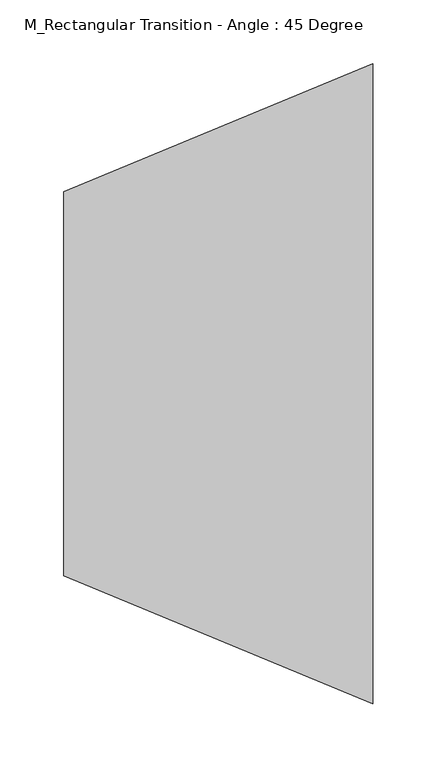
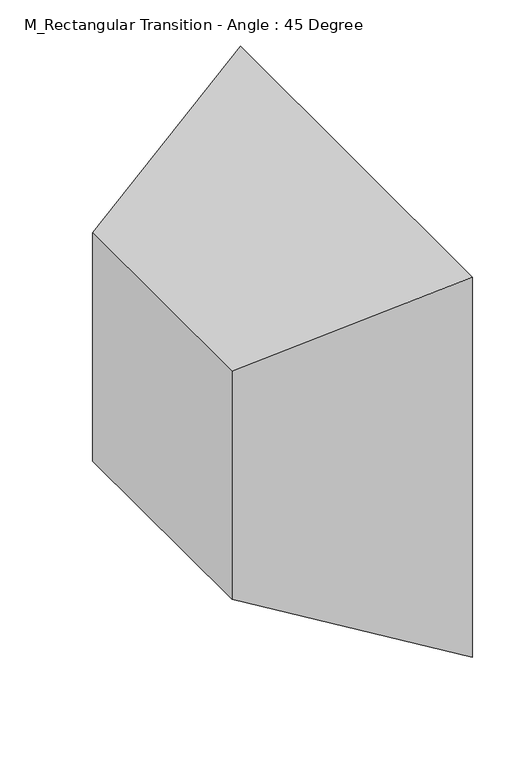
"""IFC4 building model written with IfcOpenShell, lengths in millimetres: duct fitting geometry, M_Rectangular Transition - Angle : 45 Degree."""

import ifcopenshell
import ifcopenshell.guid

model = None  # the IFC model being written
_history = None  # IfcOwnerHistory: only IFC2X3 demands one
_inside = {}  # id of a spatial element -> (the spatial element, [elements in it])
_under = {}  # id of a project, library or spatial element -> (it, [spatial elements below it])
_declared = {}  # id of a project -> (the project, [libraries it declares])
_typed = {}  # id of a type object -> (the type object, [elements of that type])
_made_of = {}  # id of a material, layer set ... -> (it, [elements and type objects made of it])


def new_model(schema):
    """Start an empty IFC model of exactly this schema.

    Asked for "IFC4X3", IfcOpenShell would pick the latest addendum, in which some entities
    have other attributes; the version numbers below select the first issue.
    IFC2X3 requires an IfcOwnerHistory on every rooted entity: one is made here for all.
    """
    global model, _history
    if schema == "IFC4X3":
        model = ifcopenshell.file(schema_version=(4, 3, 0, 0))
    else:
        model = ifcopenshell.file(schema=schema)
    _inside.clear()
    _under.clear()
    _declared.clear()
    _typed.clear()
    _made_of.clear()
    _history = None
    if model.schema == "IFC2X3":
        org = make("IfcOrganization", Name="unknown")
        user = make(
            "IfcPersonAndOrganization",
            ThePerson=make("IfcPerson", FamilyName="unknown"),
            TheOrganization=org,
        )
        app = make(
            "IfcApplication",
            ApplicationDeveloper=org,
            Version="unknown",
            ApplicationFullName="unknown",
            ApplicationIdentifier="unknown",
        )
        _history = make(
            "IfcOwnerHistory",
            OwningUser=user,
            OwningApplication=app,
            ChangeAction="ADDED",
            CreationDate=0,
        )
    return model


def make(cls, **values):
    """One entity of the class cls with the attributes given. An attribute that is None is left unset."""
    return model.create_entity(
        cls, **{name: value for name, value in values.items() if value is not None}
    )


def rooted(cls, **values):
    """An entity with a GlobalId (a new one), such as an element, a storey or a relation."""
    return make(cls, GlobalId=ifcopenshell.guid.new(), OwnerHistory=_history, **values)


def si_unit(unit_type, name, prefix=None):
    """IfcSIUnit, for example si_unit("LENGTHUNIT", "METRE", prefix="MILLI")."""
    return make("IfcSIUnit", UnitType=unit_type, Prefix=prefix, Name=name)


def assignment(units):
    """IfcUnitAssignment: the units of a project."""
    return None if units is None else make("IfcUnitAssignment", Units=units)


def point(xyz):
    """IfcCartesianPoint."""
    return None if xyz is None else make("IfcCartesianPoint", Coordinates=xyz)


def direction(xyz):
    """IfcDirection."""
    return None if xyz is None else make("IfcDirection", DirectionRatios=xyz)


def frame(location, z_axis=None, x_axis=None):
    """IfcAxis2Placement3D, a coordinate frame: its origin and axes. An axis left out is left unset."""
    return make(
        "IfcAxis2Placement3D",
        Location=point(location),
        Axis=direction(z_axis),
        RefDirection=direction(x_axis),
    )


def origin():
    """The frame at (0, 0, 0) with its axes left unset."""
    return frame((0.0, 0.0, 0.0))


def place(relative_to, where):
    """IfcLocalPlacement: puts the frame where relative to a parent placement (None: the world)."""
    return make(
        "IfcLocalPlacement", PlacementRelTo=relative_to, RelativePlacement=where
    )


def context(
    kind, dimensions, precision=None, world=None, true_north=None, identifier=None
):
    """IfcGeometricRepresentationContext, for example the 3D "Model" context."""
    return make(
        "IfcGeometricRepresentationContext",
        ContextIdentifier=identifier,
        ContextType=kind,
        CoordinateSpaceDimension=dimensions,
        Precision=precision,
        WorldCoordinateSystem=world,
        TrueNorth=true_north,
    )


def project(units=None, contexts=None):
    """IfcProject with its units and contexts."""
    return rooted(
        "IfcProject",
        Name="project",
        RepresentationContexts=contexts,
        UnitsInContext=assignment(units),
    )


def spatial(cls, under=None, at=None, **own):
    """A site, building, storey or space (cls), placed at a placement, below another one or the project."""
    s = rooted(cls, ObjectPlacement=at, **own)
    if under is not None:
        _under.setdefault(under.id(), (under, []))[1].append(s)
    return s


def faces_of(points, faces, orient=None, outer=None):
    """IfcFace entities. A face is a list of loops; a loop is a list of indices into points, from 0.

    orient and outer hold one flag for each loop. By default every Orientation is true, the
    first loop of a face is its IfcFaceOuterBound and the others are IfcFaceBound.
    """
    made = []
    for i, loops in enumerate(faces):
        bounds = []
        for j, loop in enumerate(loops):
            is_outer = j == 0 if outer is None else outer[i][j]
            bounds.append(
                make(
                    "IfcFaceOuterBound" if is_outer else "IfcFaceBound",
                    Bound=make("IfcPolyLoop", Polygon=[points[k] for k in loop]),
                    Orientation=True if orient is None else orient[i][j],
                )
            )
        made.append(make("IfcFace", Bounds=bounds))
    return made


def faceted_brep(points, faces, orient=None, outer=None, voids=None):
    """IfcFacetedBrep: a solid bounded by flat faces; with voids (closed shells), ...WithVoids."""
    shared = [point(p) for p in points]
    hull = make("IfcClosedShell", CfsFaces=faces_of(shared, faces, orient, outer))
    if voids is None:
        return make("IfcFacetedBrep", Outer=hull)
    return make(
        "IfcFacetedBrepWithVoids",
        Outer=hull,
        Voids=[
            make(cls, CfsFaces=faces_of(shared, fs, o, b)) for cls, fs, o, b in voids
        ],
    )


def shape(context_of_items, identifier, shape_type, items):
    """IfcShapeRepresentation: the items that make up one representation, for example the "Body"."""
    return make(
        "IfcShapeRepresentation",
        ContextOfItems=context_of_items,
        RepresentationIdentifier=identifier,
        RepresentationType=shape_type,
        Items=items,
    )


def source(mapping_origin, context_of_items, identifier, shape_type, items):
    """IfcRepresentationMap: a shape defined once, which mapped items show again and again."""
    return make(
        "IfcRepresentationMap",
        MappingOrigin=mapping_origin,
        MappedRepresentation=shape(context_of_items, identifier, shape_type, items),
    )


def transform(
    local_origin,
    x_axis=None,
    y_axis=None,
    z_axis=None,
    scale=None,
    scale2=None,
    scale3=None,
    uniform=True,
):
    """IfcCartesianTransformationOperator3D, or its non-uniform kind. x_axis, y_axis, z_axis: its Axis1, 2, 3."""
    if uniform:
        return make(
            "IfcCartesianTransformationOperator3D",
            Axis1=direction(x_axis),
            Axis2=direction(y_axis),
            LocalOrigin=point(local_origin),
            Scale=scale,
            Axis3=direction(z_axis),
        )
    return make(
        "IfcCartesianTransformationOperator3DnonUniform",
        Axis1=direction(x_axis),
        Axis2=direction(y_axis),
        LocalOrigin=point(local_origin),
        Scale=scale,
        Axis3=direction(z_axis),
        Scale2=scale2,
        Scale3=scale3,
    )


def mapped(mapping_source, mapping_target):
    """IfcMappedItem: shows the shape of a source again, moved by a transform."""
    return make(
        "IfcMappedItem", MappingSource=mapping_source, MappingTarget=mapping_target
    )


def made_of(thing, what):
    """Note that an element or type object is made of a material, layer set ...; save() writes the relation."""
    if what is not None:
        _made_of.setdefault(what.id(), (what, []))[1].append(thing)
    return thing


def element(
    cls,
    number,
    at=None,
    inside=None,
    cuts=None,
    type_object=None,
    material=None,
    context=None,
    identifier="Body",
    shape_type=None,
    held_by="IfcProductDefinitionShape",
    body=None,
    shapes=None,
    **own,
):
    """One element of the class cls, such as IfcWall. Its Tag is "e" and its number.

    at: its placement. inside: the storey or other place that contains it. cuts: it is an
    opening in that element (IfcRelVoidsElement). A single representation is given by context,
    identifier, shape_type and body (its items); several are given by shapes. held_by: the class
    of the entity that holds the representations. save() writes the other relations.
    """
    e = rooted(cls, Tag="e%d" % number, ObjectPlacement=at, **own)
    if body is not None:
        shapes = [shape(context, identifier, shape_type, body)]
    if shapes is not None:
        e.Representation = make(held_by, Representations=shapes)
    if inside is not None:
        _inside.setdefault(inside.id(), (inside, []))[1].append(e)
    if cuts is not None:
        rooted(
            "IfcRelVoidsElement", RelatingBuildingElement=cuts, RelatedOpeningElement=e
        )
    if type_object is not None:
        _typed.setdefault(type_object.id(), (type_object, []))[1].append(e)
    return made_of(e, material)


def aggregate(whole, parts):
    """IfcRelAggregates: a whole, such as a stair, and the parts it consists of."""
    return rooted("IfcRelAggregates", RelatingObject=whole, RelatedObjects=parts)


def save(model, path):
    """Write the relations noted so far, then the file.

    IfcRelAggregates (storeys below a building ...), IfcRelContainedInSpatialStructure (elements
    in a storey), IfcRelDefinesByType, IfcRelAssociatesMaterial and IfcRelDeclares: one each for
    every whole, place, type object, material and project.
    """
    for whole, parts in _under.values():
        aggregate(whole, parts)
    for where, things in _inside.values():
        rooted(
            "IfcRelContainedInSpatialStructure",
            RelatedElements=things,
            RelatingStructure=where,
        )
    for kind, things in _typed.values():
        rooted("IfcRelDefinesByType", RelatedObjects=things, RelatingType=kind)
    for what, things in _made_of.values():
        rooted("IfcRelAssociatesMaterial", RelatedObjects=things, RelatingMaterial=what)
    for by, libraries in _declared.values():
        rooted("IfcRelDeclares", RelatingContext=by, RelatedDefinitions=libraries)
    model.write(path)


def m_rectangular_transition_angle_45_degree_8353ceda(model_context):
    return source(origin(), model_context, "Body", "Brep", [
        faceted_brep([(241.4213562, -250.0, 250.0), (241.4213562, -250.0, -250.0), (241.4213562, 250.0, -250.0), (241.4213562, 250.0, 250.0), (0.0, -150.0, 150.0), (0.0, 150.0, 150.0), (0.0, 150.0, -150.0), (0.0, -150.0, -150.0)], [[[0, 1, 2, 3]], [[4, 5, 6, 7]], [[4, 7, 1, 0]], [[7, 6, 2, 1]], [[6, 5, 3, 2]], [[5, 4, 0, 3]]]),
        faceted_brep([(241.4213562, -250.0, 250.0), (241.4213562, -250.0, -250.0), (241.4213562, 250.0, -250.0), (241.4213562, 250.0, 250.0), (0.0, -150.0, 150.0), (0.0, 150.0, 150.0), (0.0, 150.0, -150.0), (0.0, -150.0, -150.0)], [[[0, 1, 2, 3]], [[4, 5, 6, 7]], [[4, 7, 1, 0]], [[7, 6, 2, 1]], [[6, 5, 3, 2]], [[5, 4, 0, 3]]]),
        faceted_brep([(241.4213562, -250.0, 250.0), (241.4213562, -250.0, -250.0), (241.4213562, 250.0, -250.0), (241.4213562, 250.0, 250.0), (0.0, -150.0, 150.0), (0.0, 150.0, 150.0), (0.0, 150.0, -150.0), (0.0, -150.0, -150.0)], [[[0, 1, 2, 3]], [[4, 5, 6, 7]], [[4, 7, 1, 0]], [[7, 6, 2, 1]], [[6, 5, 3, 2]], [[5, 4, 0, 3]]]),
    ])


if __name__ == "__main__":
    model = new_model("IFC4")
    model_context = context("Model", 3, world=origin())
    ifc_project = project(units=[si_unit("LENGTHUNIT", "METRE", prefix="MILLI")], contexts=[model_context])
    site = spatial("IfcSite", under=ifc_project)
    building = spatial("IfcBuilding", under=site)
    placement = place(None, origin())
    m_rectangular_transition_angle_45_degree_shape = m_rectangular_transition_angle_45_degree_8353ceda(model_context)
    element("IfcDuctFitting", 1, ObjectType="M_Rectangular Transition - Angle : 45 Degree", at=placement, inside=building, context=model_context, shape_type="MappedRepresentation", body=[
        mapped(m_rectangular_transition_angle_45_degree_shape, transform((0.0, 0.0, 0.0), x_axis=(1.0, 0.0, 0.0), y_axis=(0.0, 1.0, 0.0), z_axis=(0.0, 0.0, 1.0))),
    ])
    save(model, "model.ifc")
